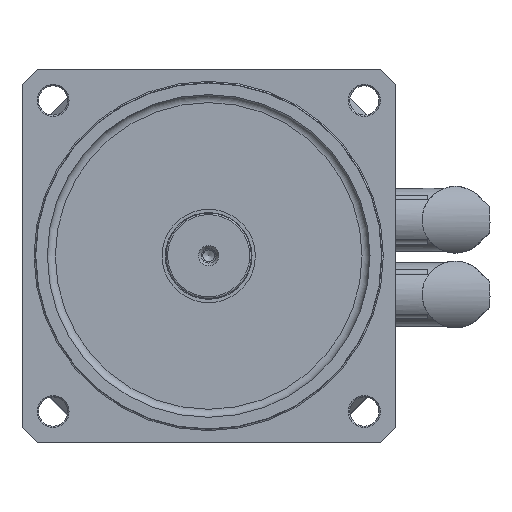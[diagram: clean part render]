
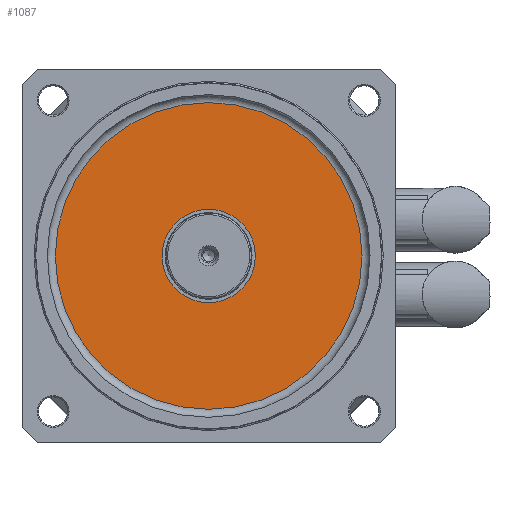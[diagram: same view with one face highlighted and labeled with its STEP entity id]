
A CAD part, top view. The second image highlights one B-rep face of the part: STEP entity #1087.
In plain terms, the highlighted planar face has unit normal (0, 0, 1).
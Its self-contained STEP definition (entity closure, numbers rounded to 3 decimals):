
#328=PLANE('',#4476);
#385=FACE_OUTER_BOUND('',#1592,.T.);
#1087=ADVANCED_FACE('',(#385),#328,.F.);
#1592=EDGE_LOOP('',(#2019));
#2019=ORIENTED_EDGE('',*,*,#3662,.T.);
#3197=VERTEX_POINT('',#6428);
#3662=EDGE_CURVE('',#3197,#3197,#4213,.T.);
#4213=CIRCLE('',#4475,57.5);
#4475=AXIS2_PLACEMENT_3D('',#6427,#5102,#5103);
#4476=AXIS2_PLACEMENT_3D('',#6429,#5104,#5105);
#5102=DIRECTION('',(0.,0.,1.));
#5103=DIRECTION('',(-1.,0.,0.));
#5104=DIRECTION('',(0.,0.,-1.));
#5105=DIRECTION('',(-1.,0.,0.));
#6427=CARTESIAN_POINT('',(0.,0.,35.));
#6428=CARTESIAN_POINT('',(-57.5,0.,35.));
#6429=CARTESIAN_POINT('',(0.,0.,35.));
